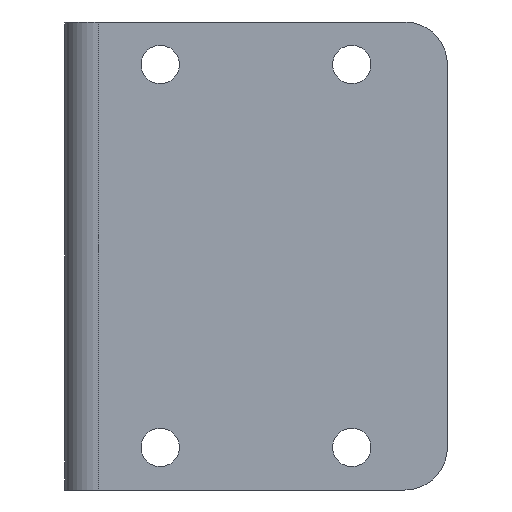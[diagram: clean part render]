
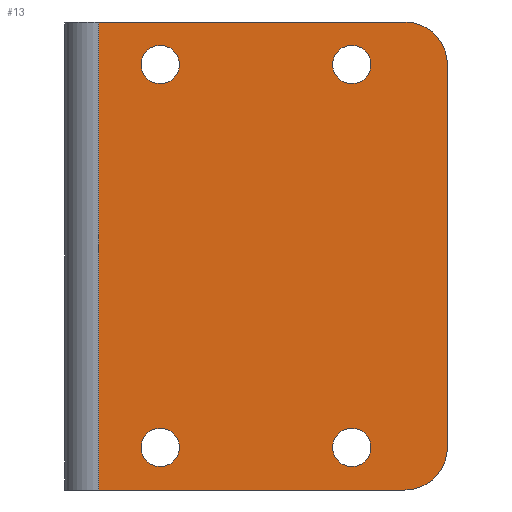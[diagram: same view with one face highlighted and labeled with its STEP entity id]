
A CAD part, front view. The second image highlights one B-rep face of the part: STEP entity #13.
In plain terms, the highlighted planar face has unit normal (0, -1, 0).
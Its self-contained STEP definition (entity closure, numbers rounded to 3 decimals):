
#13 = ADVANCED_FACE ( 'NONE', ( #1827, #1491, #1848, #1945, #1976 ), #503, .T. ) ;
#75 = CARTESIAN_POINT ( 'NONE',  ( 90., 0., 45. ) ) ;
#77 = CARTESIAN_POINT ( 'NONE',  ( 67.5, 0., -45. ) ) ;
#95 = DIRECTION ( 'NONE',  ( 0., 1., 0. ) ) ;
#110 = CARTESIAN_POINT ( 'NONE',  ( 67.5, 0., 49.5 ) ) ;
#111 = DIRECTION ( 'NONE',  ( 0., 1., 0. ) ) ;
#120 = CARTESIAN_POINT ( 'NONE',  ( 67.5, 0., -40.5 ) ) ;
#128 = DIRECTION ( 'NONE',  ( 0., 0., 1. ) ) ;
#140 = CARTESIAN_POINT ( 'NONE',  ( 90., 0., -55. ) ) ;
#150 = CARTESIAN_POINT ( 'NONE',  ( 22.5, 0., 40.5 ) ) ;
#154 = CARTESIAN_POINT ( 'NONE',  ( 67.5, 0., 45. ) ) ;
#155 = CARTESIAN_POINT ( 'NONE',  ( 0., 0., 55. ) ) ;
#174 = DIRECTION ( 'NONE',  ( 0., 0., 1. ) ) ;
#217 = CARTESIAN_POINT ( 'NONE',  ( 80., 0., 45. ) ) ;
#222 = DIRECTION ( 'NONE',  ( 0., 0., -1. ) ) ;
#287 = CARTESIAN_POINT ( 'NONE',  ( 0., 0., -55. ) ) ;
#294 = DIRECTION ( 'NONE',  ( 1., 0., 0. ) ) ;
#310 = DIRECTION ( 'NONE',  ( 0., 0., 1. ) ) ;
#332 = DIRECTION ( 'NONE',  ( 0., 1., 0. ) ) ;
#337 = DIRECTION ( 'NONE',  ( 0., -1., 0. ) ) ;
#351 = DIRECTION ( 'NONE',  ( 0., 0., -1. ) ) ;
#354 = CARTESIAN_POINT ( 'NONE',  ( 22.5, 0., -45. ) ) ;
#357 = CARTESIAN_POINT ( 'NONE',  ( 67.5, 0., 45. ) ) ;
#383 = CARTESIAN_POINT ( 'NONE',  ( 22.5, 0., -45. ) ) ;
#402 = DIRECTION ( 'NONE',  ( 0., 1., 0. ) ) ;
#452 = DIRECTION ( 'NONE',  ( 0., 1., 0. ) ) ;
#461 = DIRECTION ( 'NONE',  ( 0., 0., 1. ) ) ;
#464 = CARTESIAN_POINT ( 'NONE',  ( 0., 0., -55. ) ) ;
#466 = DIRECTION ( 'NONE',  ( 0., 1., 0. ) ) ;
#470 = DIRECTION ( 'NONE',  ( 0., -1., 0. ) ) ;
#487 = DIRECTION ( 'NONE',  ( 0., 0., 1. ) ) ;
#488 = DIRECTION ( 'NONE',  ( 0., 1., 0. ) ) ;
#493 = CARTESIAN_POINT ( 'NONE',  ( 22.5, 0., 45. ) ) ;
#498 = DIRECTION ( 'NONE',  ( 0., 0., 1. ) ) ;
#503 = PLANE ( 'NONE',  #984 ) ;
#505 = DIRECTION ( 'NONE',  ( 0., -1., 0. ) ) ;
#582 = CARTESIAN_POINT ( 'NONE',  ( 67.5, 0., -45. ) ) ;
#588 = DIRECTION ( 'NONE',  ( 0., 0., 1. ) ) ;
#595 = DIRECTION ( 'NONE',  ( 0., 0., 1. ) ) ;
#654 = CARTESIAN_POINT ( 'NONE',  ( 22.5, 0., 45. ) ) ;
#656 = DIRECTION ( 'NONE',  ( 0., 1., 0. ) ) ;
#665 = DIRECTION ( 'NONE',  ( 0., 0., 1. ) ) ;
#716 = DIRECTION ( 'NONE',  ( 0., 0., -1. ) ) ;
#733 = CARTESIAN_POINT ( 'NONE',  ( 8., 0., -55. ) ) ;
#734 = DIRECTION ( 'NONE',  ( 1., 0., 0. ) ) ;
#735 = DIRECTION ( 'NONE',  ( 0., 0., 1. ) ) ;
#741 = CARTESIAN_POINT ( 'NONE',  ( 80., 0., -45. ) ) ;
#744 = CARTESIAN_POINT ( 'NONE',  ( 90., 0., -45. ) ) ;
#766 = CARTESIAN_POINT ( 'NONE',  ( 8., 0., 55. ) ) ;
#778 = CARTESIAN_POINT ( 'NONE',  ( 22.5, 0., -49.5 ) ) ;
#780 = CARTESIAN_POINT ( 'NONE',  ( 80., 0., 55. ) ) ;
#781 = CARTESIAN_POINT ( 'NONE',  ( 67.5, 0., -49.5 ) ) ;
#783 = CARTESIAN_POINT ( 'NONE',  ( 67.5, 0., 40.5 ) ) ;
#796 = CARTESIAN_POINT ( 'NONE',  ( 8., 0., -55. ) ) ;
#806 = CARTESIAN_POINT ( 'NONE',  ( 80., 0., -55. ) ) ;
#807 = CARTESIAN_POINT ( 'NONE',  ( 22.5, 0., 49.5 ) ) ;
#820 = CARTESIAN_POINT ( 'NONE',  ( 22.5, 0., -40.5 ) ) ;
#857 = AXIS2_PLACEMENT_3D ( 'NONE', #154, #111, #735 ) ;
#861 = AXIS2_PLACEMENT_3D ( 'NONE', #383, #452, #498 ) ;
#867 = AXIS2_PLACEMENT_3D ( 'NONE', #741, #337, #351 ) ;
#869 = AXIS2_PLACEMENT_3D ( 'NONE', #217, #470, #222 ) ;
#870 = AXIS2_PLACEMENT_3D ( 'NONE', #77, #95, #128 ) ;
#871 = AXIS2_PLACEMENT_3D ( 'NONE', #654, #656, #665 ) ;
#878 = AXIS2_PLACEMENT_3D ( 'NONE', #357, #332, #310 ) ;
#880 = AXIS2_PLACEMENT_3D ( 'NONE', #354, #402, #595 ) ;
#885 = AXIS2_PLACEMENT_3D ( 'NONE', #582, #466, #461 ) ;
#886 = AXIS2_PLACEMENT_3D ( 'NONE', #493, #488, #487 ) ;
#984 = AXIS2_PLACEMENT_3D ( 'NONE', #464, #505, #716 ) ;
#1065 = EDGE_CURVE ( 'NONE', #1376, #1746, #1223, .T. ) ;
#1066 = EDGE_CURVE ( 'NONE', #1897, #1374, #1166, .T. ) ;
#1075 = EDGE_CURVE ( 'NONE', #1714, #1958, #1248, .T. ) ;
#1079 = EDGE_CURVE ( 'NONE', #1538, #1901, #1158, .T. ) ;
#1091 = EDGE_CURVE ( 'NONE', #1746, #1376, #1265, .T. ) ;
#1093 = EDGE_CURVE ( 'NONE', #1374, #1897, #1150, .T. ) ;
#1095 = EDGE_CURVE ( 'NONE', #1727, #1436, #1308, .T. ) ;
#1096 = EDGE_CURVE ( 'NONE', #1436, #1902, #1149, .T. ) ;
#1097 = EDGE_CURVE ( 'NONE', #1989, #1902, #1307, .T. ) ;
#1099 = EDGE_CURVE ( 'NONE', #1822, #1800, #1306, .T. ) ;
#1102 = EDGE_CURVE ( 'NONE', #1822, #1989, #1192, .T. ) ;
#1103 = EDGE_CURVE ( 'NONE', #1800, #1727, #1218, .T. ) ;
#1117 = EDGE_CURVE ( 'NONE', #1958, #1714, #1217, .T. ) ;
#1125 = EDGE_CURVE ( 'NONE', #1901, #1538, #1286, .T. ) ;
#1149 = CIRCLE ( 'NONE', #869, 10. ) ;
#1150 = CIRCLE ( 'NONE', #870, 4.5 ) ;
#1158 = CIRCLE ( 'NONE', #878, 4.5 ) ;
#1166 = CIRCLE ( 'NONE', #885, 4.5 ) ;
#1192 = LINE ( 'NONE', #733, #1270 ) ;
#1202 = VECTOR ( 'NONE', #734, 1000. ) ;
#1205 = VECTOR ( 'NONE', #294, 1000. ) ;
#1217 = CIRCLE ( 'NONE', #861, 4.5 ) ;
#1218 = CIRCLE ( 'NONE', #867, 10. ) ;
#1223 = CIRCLE ( 'NONE', #886, 4.5 ) ;
#1248 = CIRCLE ( 'NONE', #880, 4.5 ) ;
#1265 = CIRCLE ( 'NONE', #871, 4.5 ) ;
#1270 = VECTOR ( 'NONE', #588, 1000. ) ;
#1286 = CIRCLE ( 'NONE', #857, 4.5 ) ;
#1306 = LINE ( 'NONE', #287, #1205 ) ;
#1307 = LINE ( 'NONE', #155, #1202 ) ;
#1308 = LINE ( 'NONE', #140, #1318 ) ;
#1318 = VECTOR ( 'NONE', #174, 1000. ) ;
#1349 = EDGE_LOOP ( 'NONE', ( #1766, #1598, #1869, #1769, #1879, #1633 ) ) ;
#1374 = VERTEX_POINT ( 'NONE', #120 ) ;
#1376 = VERTEX_POINT ( 'NONE', #150 ) ;
#1436 = VERTEX_POINT ( 'NONE', #75 ) ;
#1476 = ORIENTED_EDGE ( 'NONE', *, *, #1065, .T. ) ;
#1491 = FACE_BOUND ( 'NONE', #1685, .T. ) ;
#1520 = ORIENTED_EDGE ( 'NONE', *, *, #1075, .T. ) ;
#1523 = ORIENTED_EDGE ( 'NONE', *, *, #1091, .T. ) ;
#1536 = ORIENTED_EDGE ( 'NONE', *, *, #1093, .T. ) ;
#1538 = VERTEX_POINT ( 'NONE', #110 ) ;
#1548 = ORIENTED_EDGE ( 'NONE', *, *, #1066, .T. ) ;
#1598 = ORIENTED_EDGE ( 'NONE', *, *, #1096, .T. ) ;
#1600 = ORIENTED_EDGE ( 'NONE', *, *, #1079, .T. ) ;
#1633 = ORIENTED_EDGE ( 'NONE', *, *, #1103, .T. ) ;
#1685 = EDGE_LOOP ( 'NONE', ( #1520, #1841 ) ) ;
#1714 = VERTEX_POINT ( 'NONE', #820 ) ;
#1727 = VERTEX_POINT ( 'NONE', #744 ) ;
#1746 = VERTEX_POINT ( 'NONE', #807 ) ;
#1751 = EDGE_LOOP ( 'NONE', ( #1536, #1548 ) ) ;
#1766 = ORIENTED_EDGE ( 'NONE', *, *, #1095, .T. ) ;
#1769 = ORIENTED_EDGE ( 'NONE', *, *, #1102, .F. ) ;
#1777 = EDGE_LOOP ( 'NONE', ( #1600, #1993 ) ) ;
#1800 = VERTEX_POINT ( 'NONE', #806 ) ;
#1822 = VERTEX_POINT ( 'NONE', #796 ) ;
#1827 = FACE_BOUND ( 'NONE', #1830, .T. ) ;
#1830 = EDGE_LOOP ( 'NONE', ( #1523, #1476 ) ) ;
#1841 = ORIENTED_EDGE ( 'NONE', *, *, #1117, .T. ) ;
#1848 = FACE_BOUND ( 'NONE', #1777, .T. ) ;
#1869 = ORIENTED_EDGE ( 'NONE', *, *, #1097, .F. ) ;
#1879 = ORIENTED_EDGE ( 'NONE', *, *, #1099, .T. ) ;
#1897 = VERTEX_POINT ( 'NONE', #781 ) ;
#1901 = VERTEX_POINT ( 'NONE', #783 ) ;
#1902 = VERTEX_POINT ( 'NONE', #780 ) ;
#1945 = FACE_BOUND ( 'NONE', #1751, .T. ) ;
#1958 = VERTEX_POINT ( 'NONE', #778 ) ;
#1976 = FACE_OUTER_BOUND ( 'NONE', #1349, .T. ) ;
#1989 = VERTEX_POINT ( 'NONE', #766 ) ;
#1993 = ORIENTED_EDGE ( 'NONE', *, *, #1125, .T. ) ;
